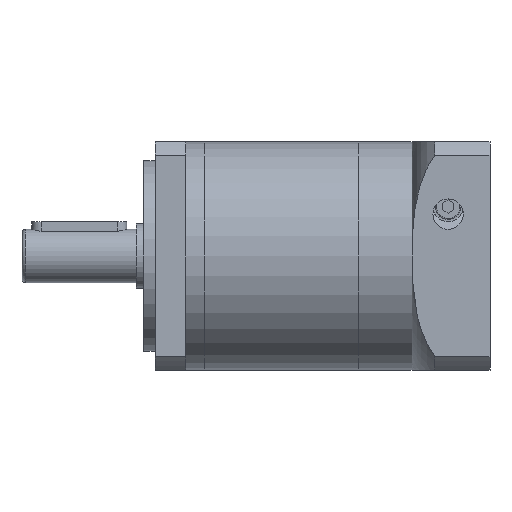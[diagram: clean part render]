
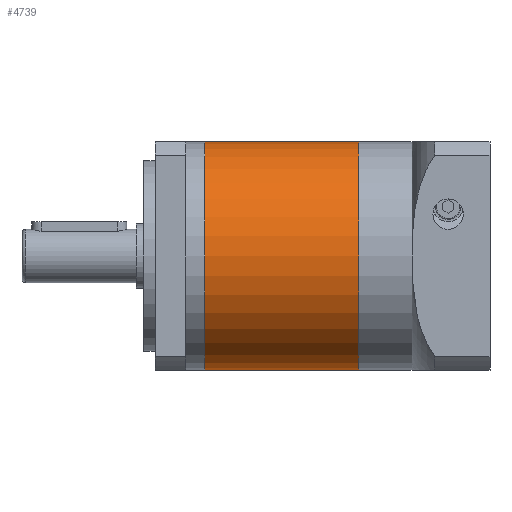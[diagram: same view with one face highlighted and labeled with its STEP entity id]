
A CAD part, left-side view. The second image highlights one B-rep face of the part: STEP entity #4739.
In plain terms, the highlighted cylindrical face has radius 30 mm (diameter 60 mm), a partial arc.
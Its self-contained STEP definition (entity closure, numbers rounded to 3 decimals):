
#148 = CARTESIAN_POINT ( 'NONE',  ( 0., -16., -30. ) ) ;
#236 = CARTESIAN_POINT ( 'NONE',  ( 0., -56.5, -30. ) ) ;
#360 = CARTESIAN_POINT ( 'NONE',  ( 0., 0., 30. ) ) ;
#416 = AXIS2_PLACEMENT_3D ( 'NONE', #3678, #709, #1957 ) ;
#586 = ORIENTED_EDGE ( 'NONE', *, *, #2815, .T. ) ;
#599 = DIRECTION ( 'NONE',  ( 0., 1., 0. ) ) ;
#671 = CARTESIAN_POINT ( 'NONE',  ( 0., -56.5, 30. ) ) ;
#709 = DIRECTION ( 'NONE',  ( 0., 1., 0. ) ) ;
#868 = ORIENTED_EDGE ( 'NONE', *, *, #2504, .T. ) ;
#1150 = VERTEX_POINT ( 'NONE', #3735 ) ;
#1347 = CARTESIAN_POINT ( 'NONE',  ( 0., -56.5, 0. ) ) ;
#1691 = FACE_OUTER_BOUND ( 'NONE', #3561, .T. ) ;
#1765 = DIRECTION ( 'NONE',  ( 0., 0., 1. ) ) ;
#1957 = DIRECTION ( 'NONE',  ( 0., 0., 1. ) ) ;
#2014 = LINE ( 'NONE', #4710, #5165 ) ;
#2041 = DIRECTION ( 'NONE',  ( 0., 1., 0. ) ) ;
#2043 = EDGE_CURVE ( 'NONE', #3054, #2186, #2014, .T. ) ;
#2091 = VECTOR ( 'NONE', #2041, 1000. ) ;
#2186 = VERTEX_POINT ( 'NONE', #148 ) ;
#2316 = AXIS2_PLACEMENT_3D ( 'NONE', #3133, #599, #3570 ) ;
#2339 = LINE ( 'NONE', #360, #2091 ) ;
#2504 = EDGE_CURVE ( 'NONE', #3054, #2683, #4311, .T. ) ;
#2552 = CYLINDRICAL_SURFACE ( 'NONE', #416, 30. ) ;
#2683 = VERTEX_POINT ( 'NONE', #671 ) ;
#2815 = EDGE_CURVE ( 'NONE', #2683, #1150, #2339, .T. ) ;
#2873 = AXIS2_PLACEMENT_3D ( 'NONE', #1347, #4362, #1765 ) ;
#2968 = EDGE_CURVE ( 'NONE', #2186, #1150, #5104, .T. ) ;
#3054 = VERTEX_POINT ( 'NONE', #236 ) ;
#3133 = CARTESIAN_POINT ( 'NONE',  ( 0., -16., 0. ) ) ;
#3407 = DIRECTION ( 'NONE',  ( 0., 1., 0. ) ) ;
#3561 = EDGE_LOOP ( 'NONE', ( #3568, #868, #586, #4940 ) ) ;
#3568 = ORIENTED_EDGE ( 'NONE', *, *, #2043, .F. ) ;
#3570 = DIRECTION ( 'NONE',  ( 0., 0., 1. ) ) ;
#3678 = CARTESIAN_POINT ( 'NONE',  ( 0., 0., 0. ) ) ;
#3735 = CARTESIAN_POINT ( 'NONE',  ( 0., -16., 30. ) ) ;
#4311 = CIRCLE ( 'NONE', #2873, 30. ) ;
#4362 = DIRECTION ( 'NONE',  ( 0., 1., 0. ) ) ;
#4710 = CARTESIAN_POINT ( 'NONE',  ( 0., 0., -30. ) ) ;
#4739 = ADVANCED_FACE ( 'NONE', ( #1691 ), #2552, .T. ) ;
#4940 = ORIENTED_EDGE ( 'NONE', *, *, #2968, .F. ) ;
#5104 = CIRCLE ( 'NONE', #2316, 30. ) ;
#5165 = VECTOR ( 'NONE', #3407, 1000. ) ;
